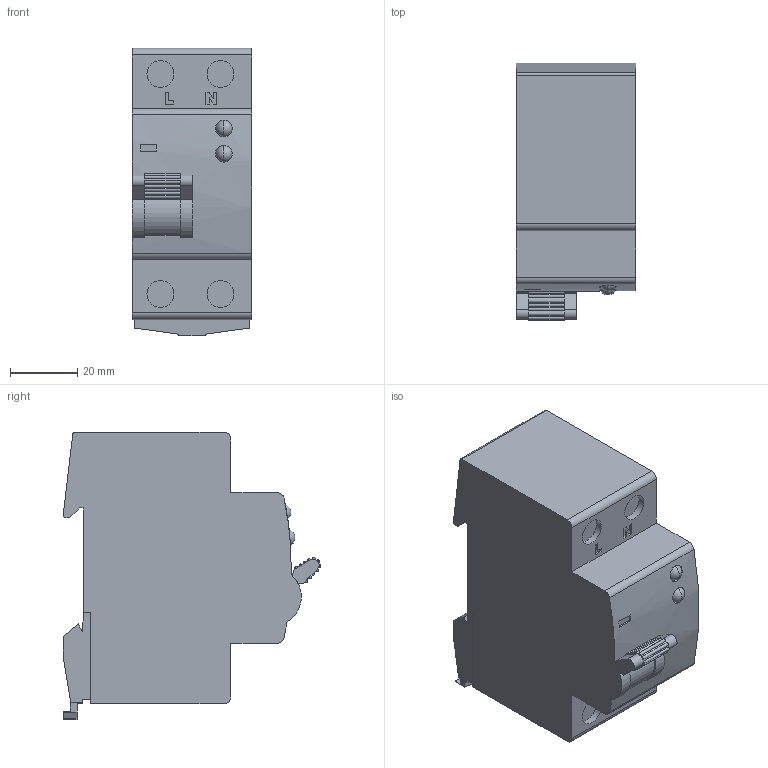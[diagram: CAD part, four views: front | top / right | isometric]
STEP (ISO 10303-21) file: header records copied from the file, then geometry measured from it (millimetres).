
FILE_DESCRIPTION(/* description */ (''),/* implementation_level */ '2;1');
FILE_NAME(/* name */ 'C:\Users\i.voinskiy\Desktop\Модели\STEP\УЗДП_АВ.stp',/* time_stamp */ '2026-05-14T11:47:24+03:00',/* author */ ('i.voinskiy'),/* organization */ (''),/* preprocessor_version */ 'ST-DEVELOPER v18.1',/* originating_system */ 'Autodesk Inventor 2022',/* authorisation */ '');
FILE_SCHEMA (('AUTOMOTIVE_DESIGN { 1 0 10303 214 3 1 1 }'));
Length unit declared in the file: millimetre
Products named in the file (8): УЗДП_АВ; УЗДП_АВ_1; УЗДП_АВ_1_1; УЗДП_АВ_2; УЗДП_АВ_3; УЗДП_АВ_4; УЗДП_АВ_5; УЗДП_АВ_6
Assembly tree (7 placements, depth 2):
  УЗДП_АВ
    УЗДП_АВ_1
    УЗДП_АВ_1_1
    УЗДП_АВ_2
    УЗДП_АВ_3
    УЗДП_АВ_4
    УЗДП_АВ_5
    УЗДП_АВ_6
Bounding box: 35.6 x 76.67 x 85.6 mm (x, y, z)
Volume: 162682.1 mm3; surface area: 24239.5 mm2
Topology: 17 solids, 17 shells, 162 faces, 362 edges, 240 vertices
Faces by surface type: plane 117, cylinder 41, sphere 4
Entity records: 4875 total; most frequent: CARTESIAN_POINT 909, DIRECTION 798, ORIENTED_EDGE 716, EDGE_CURVE 358, AXIS2_PLACEMENT_3D 267, LINE 264, VECTOR 264, VERTEX_POINT 240
